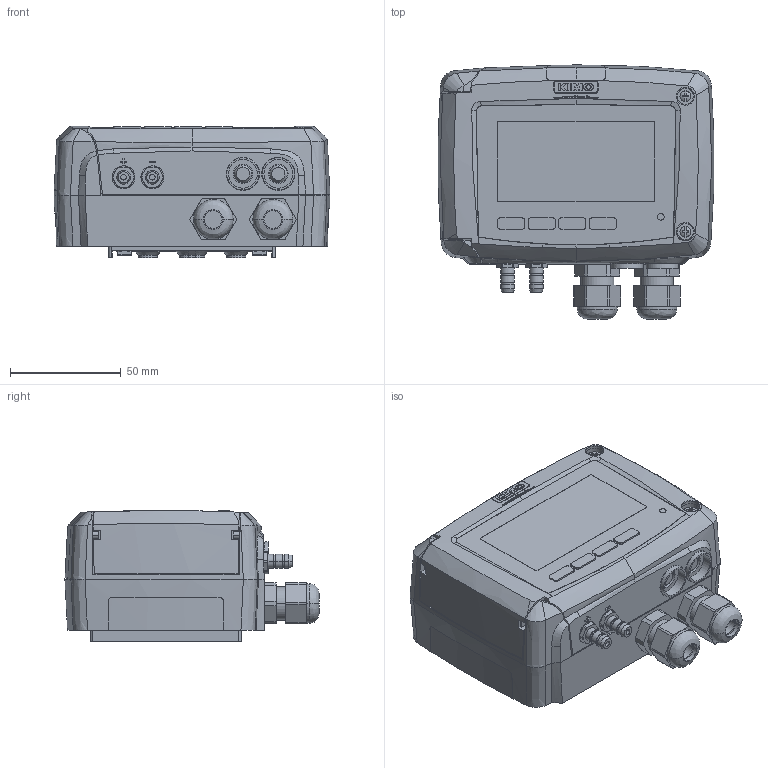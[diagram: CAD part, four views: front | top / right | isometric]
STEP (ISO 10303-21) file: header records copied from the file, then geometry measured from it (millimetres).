
FILE_DESCRIPTION((''),'2;1');
FILE_NAME('CP210_SW0001','2016-06-23T',('REFT'),(''),'PRO/ENGINEER BY PARAMETRIC TECHNOLOGY CORPORATION, 2012420','PRO/ENGINEER BY PARAMETRIC TECHNOLOGY CORPORATION, 2012420','');
FILE_SCHEMA(('CONFIG_CONTROL_DESIGN'));
Products named in the file (1): CP210_SW0001
Bounding box: 124.64 x 114.8 x 59.18 mm (x, y, z)
Volume: 573622.5 mm3; surface area: 68705.1 mm2
Topology: 1 solids, 2 shells, 2002 faces, 5272 edges, 3433 vertices
Faces by surface type: plane 1077, extrusion 393, cylinder 328, bspline 101, cone 57, torus 22, sphere 20, revolution 4
Entity records: 69949 total; most frequent: CARTESIAN_POINT 22510, ORIENTED_EDGE 10544, DIRECTION 8197, EDGE_CURVE 5272, VECTOR 3683, VERTEX_POINT 3433, LINE 3290, AXIS2_PLACEMENT_3D 2255
